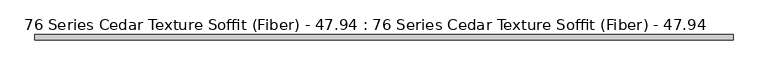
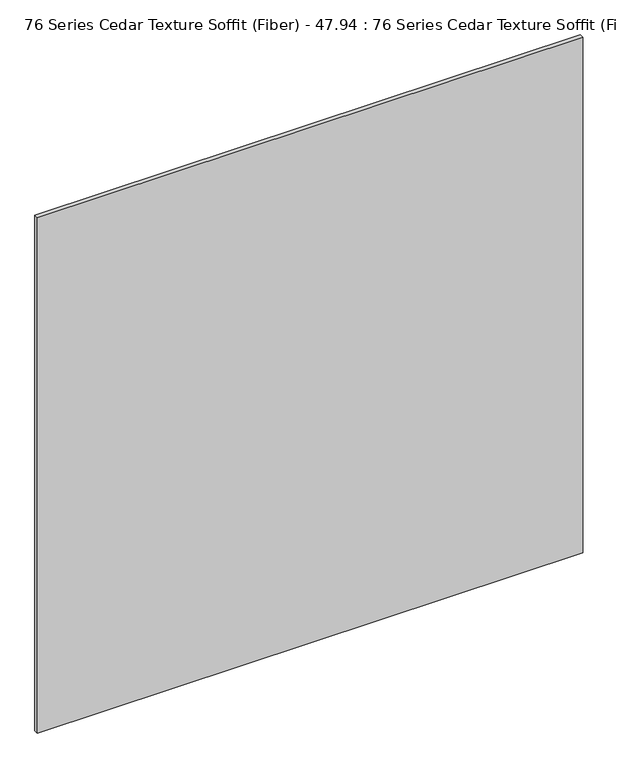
"""IFC4 building model written with IfcOpenShell, lengths in millimetres: proxy geometry, 76 Series Cedar Texture Soffit (Fiber) - 47.94 : 76 Series Cedar Texture Soffit (Fiber) - 47.94."""

from ifc_helpers import new_model, si_unit, frame, origin, place, context, project, spatial, polyline, outline, extrude, source, transform, mapped, element, save


def proxy_76_series_cedar_texture_soffit_fiber_47_94_76_series_95692760(model_context):
    return source(origin(), model_context, "Body", "SweptSolid", [
        extrude(outline(polyline([(1219.2, -9.525), (0.0, -9.525), (0.0, 0.0), (1219.2, 0.0), (1219.2, -9.525)])), frame((0.0, 0.0, -1217.676), z_axis=(0.0, 0.0, 1.0), x_axis=(1.0, 0.0, 0.0)), (0.0, 0.0, 1.0), 1217.676),
    ])


if __name__ == "__main__":
    model = new_model("IFC4")
    model_context = context("Model", 3, world=origin())
    ifc_project = project(units=[si_unit("LENGTHUNIT", "METRE", prefix="MILLI")], contexts=[model_context])
    site = spatial("IfcSite", under=ifc_project)
    building = spatial("IfcBuilding", under=site)
    placement = place(None, origin())
    proxy_76_series_cedar_texture_soffit_fiber_47_94_76_series_shape = proxy_76_series_cedar_texture_soffit_fiber_47_94_76_series_95692760(model_context)
    element("IfcBuildingElementProxy", 1, Name="76 Series Cedar Texture Soffit (Fiber) - 47.94 : 76 Series Cedar Texture Soffit (Fiber) - 47.94", ObjectType="76 Series Cedar Texture Soffit (Fiber) - 47.94 : 76 Series Cedar Texture Soffit (Fiber) - 47.94", at=placement, inside=building, context=model_context, shape_type="MappedRepresentation", body=[
        mapped(proxy_76_series_cedar_texture_soffit_fiber_47_94_76_series_shape, transform((0.0, 0.0, 0.0), x_axis=(1.0, 0.0, 0.0), y_axis=(0.0, 1.0, 0.0), z_axis=(0.0, 0.0, 1.0))),
    ])
    save(model, "model.ifc")
